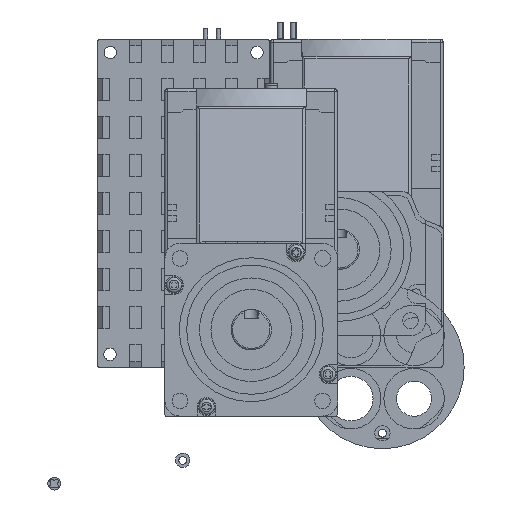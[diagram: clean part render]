
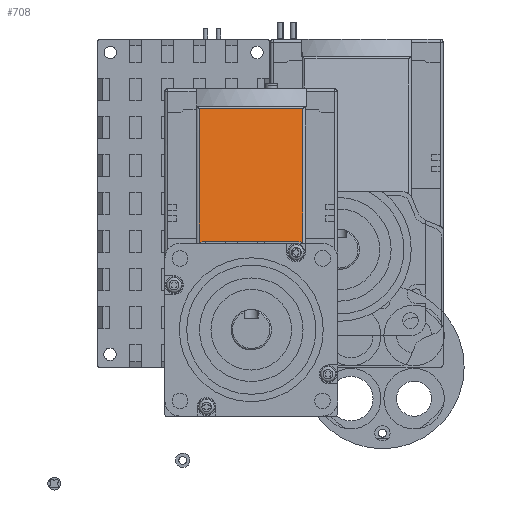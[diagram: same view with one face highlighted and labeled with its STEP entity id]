
A CAD part, front view. The second image highlights one B-rep face of the part: STEP entity #708.
In plain terms, the highlighted planar face has unit normal (0, -0.985, 0.171).
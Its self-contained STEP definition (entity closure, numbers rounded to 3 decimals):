
#708 = ADVANCED_FACE( '', ( #1534 ), #1535, .F. );
#1534 = FACE_OUTER_BOUND( '', #3018, .T. );
#1535 = PLANE( '', #3019 );
#3018 = EDGE_LOOP( '', ( #4744, #4745, #4746, #4747, #4748, #4749 ) );
#3019 = AXIS2_PLACEMENT_3D( '', #4750, #4751, #4752 );
#4744 = ORIENTED_EDGE( '', *, *, #9261, .T. );
#4745 = ORIENTED_EDGE( '', *, *, #9250, .T. );
#4746 = ORIENTED_EDGE( '', *, *, #9242, .T. );
#4747 = ORIENTED_EDGE( '', *, *, #9247, .T. );
#4748 = ORIENTED_EDGE( '', *, *, #9252, .T. );
#4749 = ORIENTED_EDGE( '', *, *, #9303, .T. );
#4750 = CARTESIAN_POINT( '', ( 167.538, -37.436, 108.646 ) );
#4751 = DIRECTION( '', ( 0., 0.985, -0.171 ) );
#4752 = DIRECTION( '', ( 0., 0.171, 0.985 ) );
#9242 = EDGE_CURVE( '', #10766, #10764, #10767, .T. );
#9247 = EDGE_CURVE( '', #10764, #10773, #10775, .T. );
#9250 = EDGE_CURVE( '', #10780, #10766, #10781, .T. );
#9252 = EDGE_CURVE( '', #10773, #10783, #10784, .T. );
#9261 = EDGE_CURVE( '', #10799, #10780, #10800, .T. );
#9303 = EDGE_CURVE( '', #10783, #10799, #10869, .T. );
#10764 = VERTEX_POINT( '', #13180 );
#10766 = VERTEX_POINT( '', #13182 );
#10767 = LINE( '', #13183, #13184 );
#10773 = VERTEX_POINT( '', #13191 );
#10775 = LINE( '', #13204, #13205 );
#10780 = VERTEX_POINT( '', #13211 );
#10781 = LINE( '', #13212, #13213 );
#10783 = VERTEX_POINT( '', #13228 );
#10784 = ELLIPSE( '', #13229, 3.36, 3.31 );
#10799 = VERTEX_POINT( '', #13253 );
#10800 = ELLIPSE( '', #13254, 3.36, 3.31 );
#10869 = LINE( '', #13367, #13368 );
#13180 = CARTESIAN_POINT( '', ( 12.001, -37.58, 107.817 ) );
#13182 = CARTESIAN_POINT( '', ( 48.001, -37.58, 107.817 ) );
#13183 = CARTESIAN_POINT( '', ( 11.001, -37.58, 107.817 ) );
#13184 = VECTOR( '', #16554, 1000. );
#13191 = CARTESIAN_POINT( '', ( 12.001, -45.722, 61.011 ) );
#13204 = CARTESIAN_POINT( '', ( 12.001, -37.436, 108.646 ) );
#13205 = VECTOR( '', #16562, 1000. );
#13211 = CARTESIAN_POINT( '', ( 48.001, -45.727, 60.986 ) );
#13212 = CARTESIAN_POINT( '', ( 48.001, -37.58, 107.817 ) );
#13213 = VECTOR( '', #16567, 1000. );
#13228 = CARTESIAN_POINT( '', ( 13.95, -45.612, 61.646 ) );
#13229 = AXIS2_PLACEMENT_3D( '', #16568, #16569, #16570 );
#13253 = CARTESIAN_POINT( '', ( 46.017, -45.612, 61.646 ) );
#13254 = AXIS2_PLACEMENT_3D( '', #16580, #16581, #16582 );
#13367 = CARTESIAN_POINT( '', ( 30.001, -45.612, 61.646 ) );
#13368 = VECTOR( '', #16642, 1000. );
#16554 = DIRECTION( '', ( -1., 0., 0. ) );
#16562 = DIRECTION( '', ( 0., -0.171, -0.985 ) );
#16567 = DIRECTION( '', ( 0., 0.171, 0.985 ) );
#16568 = CARTESIAN_POINT( '', ( 13.95, -46.188, 58.336 ) );
#16569 = DIRECTION( '', ( 0., 0.985, -0.171 ) );
#16570 = DIRECTION( '', ( 0., 0.171, 0.985 ) );
#16580 = CARTESIAN_POINT( '', ( 46.017, -46.188, 58.336 ) );
#16581 = DIRECTION( '', ( 0., 0.985, -0.171 ) );
#16582 = DIRECTION( '', ( 0., 0.171, 0.985 ) );
#16642 = DIRECTION( '', ( 1., 0., 0. ) );
